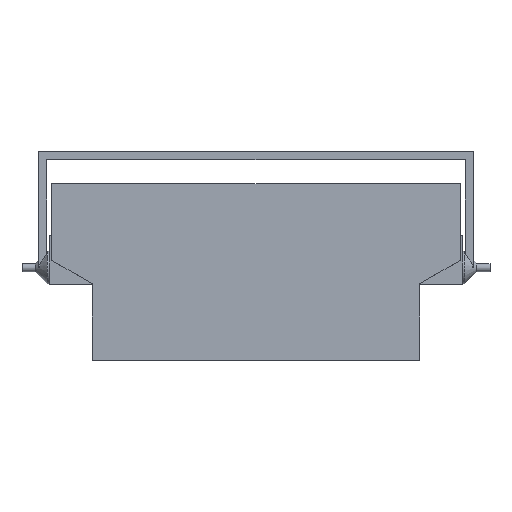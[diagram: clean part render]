
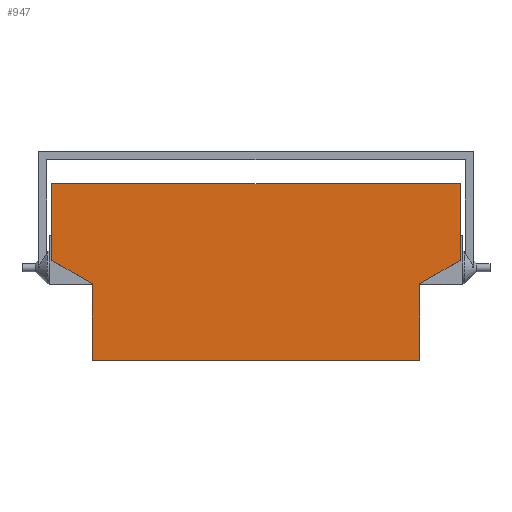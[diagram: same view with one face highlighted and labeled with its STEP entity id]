
A CAD part, top view. The second image highlights one B-rep face of the part: STEP entity #947.
In plain terms, the highlighted planar face has unit normal (0, 0, 1).
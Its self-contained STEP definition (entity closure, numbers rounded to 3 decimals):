
#200=ORIENTED_EDGE('',*,*,#359,.T.);
#201=ORIENTED_EDGE('',*,*,#384,.T.);
#202=ORIENTED_EDGE('',*,*,#386,.T.);
#203=ORIENTED_EDGE('',*,*,#364,.T.);
#204=ORIENTED_EDGE('',*,*,#372,.T.);
#205=ORIENTED_EDGE('',*,*,#381,.T.);
#206=ORIENTED_EDGE('',*,*,#388,.T.);
#207=ORIENTED_EDGE('',*,*,#354,.T.);
#354=EDGE_CURVE('',#468,#467,#557,.T.);
#359=EDGE_CURVE('',#467,#471,#562,.T.);
#364=EDGE_CURVE('',#476,#475,#567,.T.);
#372=EDGE_CURVE('',#475,#482,#575,.T.);
#381=EDGE_CURVE('',#482,#488,#584,.T.);
#384=EDGE_CURVE('',#471,#490,#587,.T.);
#386=EDGE_CURVE('',#490,#476,#589,.T.);
#388=EDGE_CURVE('',#488,#468,#591,.T.);
#467=VERTEX_POINT('',#1460);
#468=VERTEX_POINT('',#1462);
#471=VERTEX_POINT('',#1470);
#475=VERTEX_POINT('',#1481);
#476=VERTEX_POINT('',#1483);
#482=VERTEX_POINT('',#1497);
#488=VERTEX_POINT('',#1514);
#490=VERTEX_POINT('',#1520);
#557=LINE('',#1461,#645);
#562=LINE('',#1471,#650);
#567=LINE('',#1482,#655);
#575=LINE('',#1498,#663);
#584=LINE('',#1515,#672);
#587=LINE('',#1521,#675);
#589=LINE('',#1524,#677);
#591=LINE('',#1527,#679);
#645=VECTOR('',#1163,1000.);
#650=VECTOR('',#1170,1000.);
#655=VECTOR('',#1179,1000.);
#663=VECTOR('',#1189,1000.);
#672=VECTOR('',#1202,1000.);
#675=VECTOR('',#1207,1000.);
#677=VECTOR('',#1211,1000.);
#679=VECTOR('',#1215,1000.);
#740=EDGE_LOOP('',(#200,#201,#202,#203,#204,#205,#206,#207));
#828=FACE_BOUND('',#740,.T.);
#899=PLANE('',#1036);
#947=ADVANCED_FACE('',(#828),#899,.T.);
#1036=AXIS2_PLACEMENT_3D('',#1547,#1236,#1237);
#1163=DIRECTION('',(0.,-1.,0.));
#1170=DIRECTION('',(0.865,-0.502,0.));
#1179=DIRECTION('',(0.,1.,0.));
#1189=DIRECTION('',(0.865,0.502,0.));
#1202=DIRECTION('',(0.,1.,0.));
#1207=DIRECTION('',(0.,-1.,0.));
#1211=DIRECTION('',(1.,0.,0.));
#1215=DIRECTION('',(-1.,0.,0.));
#1236=DIRECTION('',(0.,0.,1.));
#1237=DIRECTION('',(1.,0.,0.));
#1460=CARTESIAN_POINT('',(-502.5,-57.,204.));
#1461=CARTESIAN_POINT('',(-502.5,131.,204.));
#1462=CARTESIAN_POINT('',(-502.5,131.,204.));
#1470=CARTESIAN_POINT('',(-402.5,-115.,204.));
#1471=CARTESIAN_POINT('',(-502.5,-57.,204.));
#1481=CARTESIAN_POINT('',(402.5,-115.,204.));
#1482=CARTESIAN_POINT('',(402.5,-303.,204.));
#1483=CARTESIAN_POINT('',(402.5,-303.,204.));
#1497=CARTESIAN_POINT('',(502.5,-57.,204.));
#1498=CARTESIAN_POINT('',(402.5,-115.,204.));
#1514=CARTESIAN_POINT('',(502.5,131.,204.));
#1515=CARTESIAN_POINT('',(502.5,-57.,204.));
#1520=CARTESIAN_POINT('',(-402.5,-303.,204.));
#1521=CARTESIAN_POINT('',(-402.5,-115.,204.));
#1524=CARTESIAN_POINT('',(-402.5,-303.,204.));
#1527=CARTESIAN_POINT('',(502.5,131.,204.));
#1547=CARTESIAN_POINT('',(0.,0.,204.));
